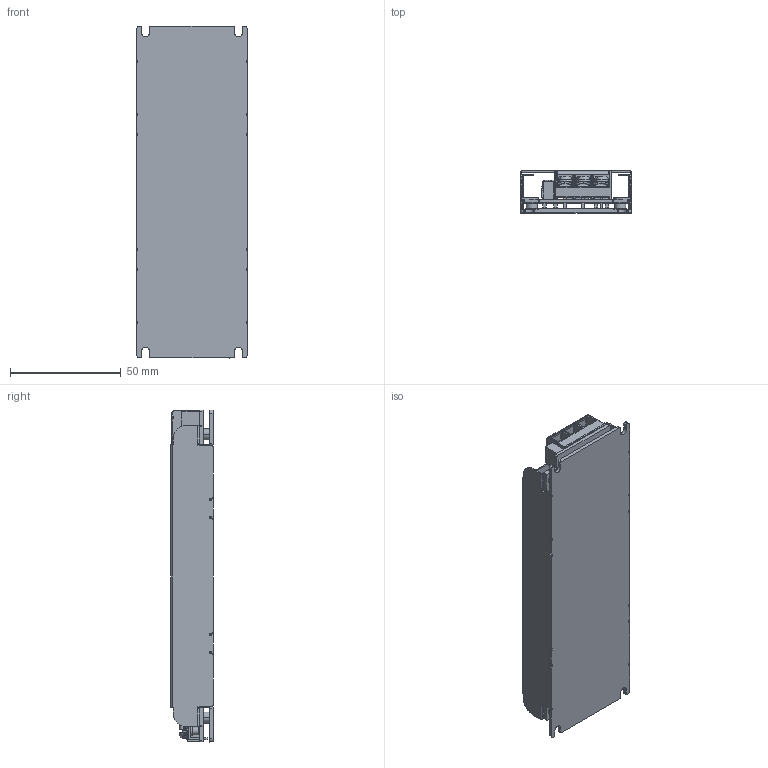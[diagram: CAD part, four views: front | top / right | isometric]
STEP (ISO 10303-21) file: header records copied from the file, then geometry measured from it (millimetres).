
FILE_DESCRIPTION((''),'2;1');
FILE_NAME('UDP-200_ASM','2026-10-16T17:05:56',('shalinice'),(''),'CREO PARAMETRIC BY PTC INC, 2017110','CREO PARAMETRIC BY PTC INC, 2017110','');
FILE_SCHEMA(('AUTOMOTIVE_DESIGN { 1 0 10303 214 1 1 1 1 }'));
Products named in the file (13): UDP-200A-0309; PRT0032; PRT0033; PRT0034; PRT0035; PRT0036; ASM0011_ASM_ASM; ASM0010_ASM_ASM; PRT0037; ASM0009_ASM_ASM; ASM0008_ASM_ASM; FB825-22RC-GAI-230607_ASM; UDP-200_ASM
Assembly tree (14 placements, depth 7):
  UDP-200_ASM
    UDP-200A-0309
    FB825-22RC-GAI-230607_ASM
      ASM0008_ASM_ASM
        ASM0009_ASM_ASM
          ASM0010_ASM_ASM
            PRT0032
            ASM0011_ASM_ASM  x3
              PRT0033
              PRT0034
              PRT0035
              PRT0036
          PRT0037
Bounding box: 50 x 19 x 150 mm (x, y, z)
Volume: 34110.9 mm3; surface area: 65828.3 mm2
Topology: 15 solids, 15 shells, 2089 faces, 5809 edges, 3721 vertices
Faces by surface type: plane 1145, cylinder 458, bspline 243, torus 116, cone 114, sphere 10, extrusion 3
Entity records: 63020 total; most frequent: CARTESIAN_POINT 18422, ORIENTED_EDGE 7586, DIRECTION 6738, EDGE_CURVE 3793, VERTEX_POINT 2405, VECTOR 2320, LINE 2319, AXIS2_PLACEMENT_3D 2209
